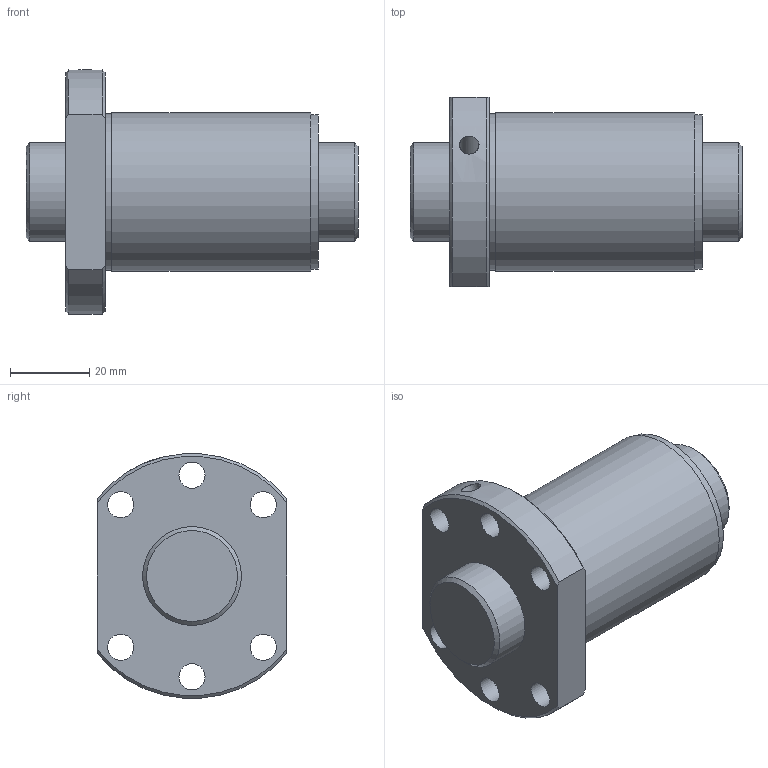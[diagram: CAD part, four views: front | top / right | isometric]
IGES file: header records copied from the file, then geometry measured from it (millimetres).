
Start section: Data from Parasolid IGES Translator 26.0.171, Copyright(c) 2006 Siemens PLM Software. All Rights Reserved.
Global section: file name: SDA2530V-4G0+84LC0(0G000).igs; native system: By Siemens PLM Incorporated; preprocessor: XPlus GENERIC/IGES 26.0.171; author: Noname; organization: Noname; date: 20240528.113055; units: millimetre
Bounding box: 84 x 48 x 61.8 mm (x, y, z)
Surface area: 26507.8 mm2 (no closed solid volume)
Topology: 0 solids, 0 shells, 31 faces, 156 edges, 139 vertices
Faces by surface type: revolution 22, extrusion 9
